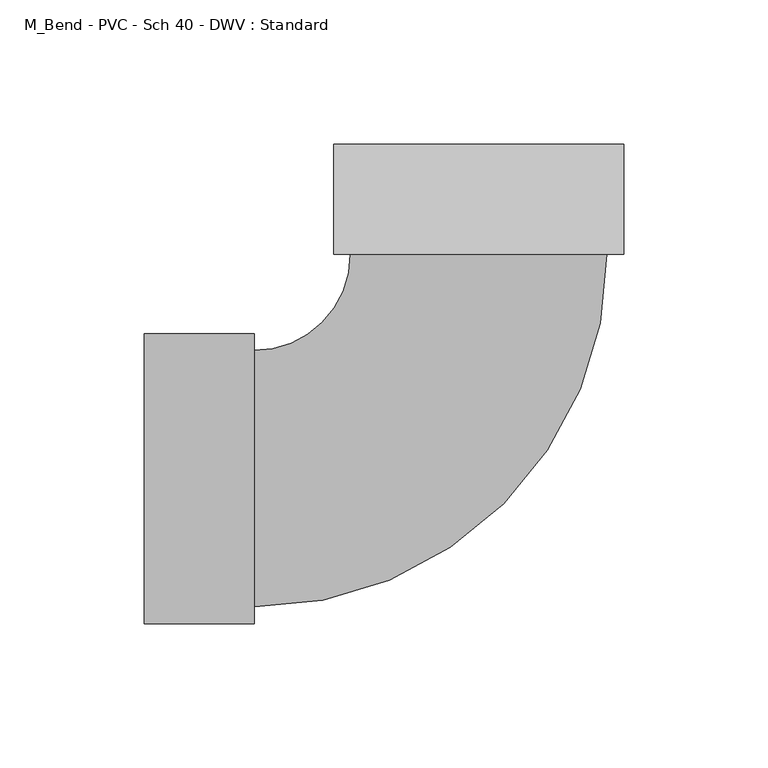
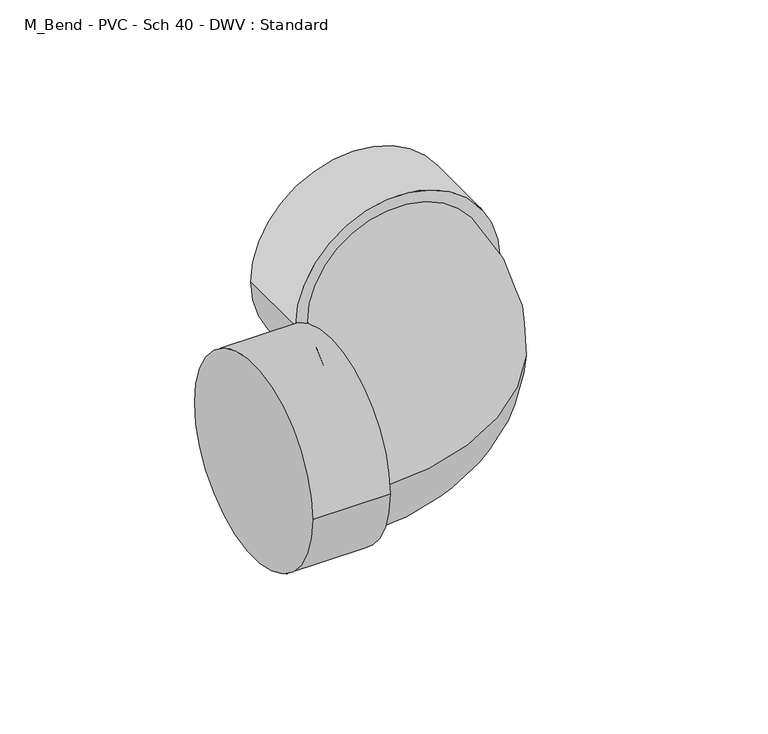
"""IFC4 building model written with IfcOpenShell, lengths in millimetres: pipe fitting geometry, M_Bend - PVC - Sch 40 - DWV : Standard."""

from ifc_helpers import new_model, si_unit, point, frame, origin, place, context, project, spatial, circle_curve, ellipse_curve, trimmed, source, transform, mapped, element, save
from ifc_brep_helpers import plane_surface, cylinder_surface, revolved_surface, advanced_brep


def m_bend_pvc_sch_40_dwv_standard_a4b99d37(model_context):
    return source(origin(), model_context, "Body", "AdvancedBrep", [
        advanced_brep(
        [(-115.9002, -50.2666, 0.0), (-115.9002, 50.2666, 0.0), (-77.8002, -50.2666, 0.0), (-77.8002, 50.2666, 0.0), (-77.8002, -44.45, 0.0), (-77.8002, 44.45, 0.0), (-44.45, 77.8002, 0.0), (44.45, 77.8002, 0.0), (50.2666, 77.8002, 0.0), (-50.2666, 77.8002, 0.0), (50.2666, 115.9002, 0.0), (-50.2666, 115.9002, 0.0)],
        [
            (0, 1, circle_curve(frame((-115.9002, 0.0, 0.0), z_axis=(-1.0, 0.0, 0.0), x_axis=(0.0, 1.0, 0.0)), 50.2666)),
            (1, 0, circle_curve(frame((-115.9002, 0.0, 0.0), z_axis=(-1.0, 0.0, 0.0), x_axis=(0.0, 1.0, 0.0)), 50.2666)),
            (2, 3, circle_curve(frame((-77.8002, 0.0, 0.0), z_axis=(1.0, 0.0, 0.0), x_axis=(0.0, 1.0, 0.0)), 50.2666)),
            (3, 2, circle_curve(frame((-77.8002, 0.0, 0.0), z_axis=(1.0, 0.0, 0.0), x_axis=(0.0, 1.0, 0.0)), 50.2666)),
            (4, 5, circle_curve(frame((-77.8002, 0.0, 0.0), z_axis=(-1.0, 0.0, 0.0), x_axis=(0.0, 1.0, 0.0)), 44.45)),
            (5, 4, circle_curve(frame((-77.8002, 0.0, 0.0), z_axis=(-1.0, 0.0, 0.0), x_axis=(0.0, 1.0, 0.0)), 44.45)),
            (0, 2),
            (3, 1),
            (6, 5, circle_curve(frame((-77.8002, 77.8002, 0.0), z_axis=(0.0, 0.0, -1.0), x_axis=(0.0, -1.0, 0.0)), 33.3502)),
            (4, 7, circle_curve(frame((-77.8002, 77.8002, 0.0), z_axis=(0.0, 0.0, 1.0), x_axis=(0.0, -1.0, 0.0)), 122.2502)),
            (7, 6, circle_curve(frame((0.0, 77.8002, 0.0), z_axis=(0.0, -1.0, 0.0), x_axis=(-1.0, 0.0, 0.0)), 44.45)),
            (6, 7, circle_curve(frame((0.0, 77.8002, 0.0), z_axis=(0.0, -1.0, 0.0), x_axis=(-1.0, 0.0, 0.0)), 44.45)),
            (8, 9, circle_curve(frame((0.0, 77.8002, 0.0), z_axis=(0.0, -1.0, 0.0), x_axis=(-1.0, 0.0, 0.0)), 50.2666)),
            (9, 8, circle_curve(frame((0.0, 77.8002, 0.0), z_axis=(0.0, -1.0, 0.0), x_axis=(-1.0, 0.0, 0.0)), 50.2666)),
            (10, 11, circle_curve(frame((0.0, 115.9002, 0.0), z_axis=(0.0, 1.0, 0.0), x_axis=(-1.0, 0.0, 0.0)), 50.2666)),
            (11, 10, circle_curve(frame((0.0, 115.9002, 0.0), z_axis=(0.0, 1.0, 0.0), x_axis=(-1.0, 0.0, 0.0)), 50.2666)),
            (8, 10),
            (11, 9),
        ],
        [
            plane_surface(frame((-115.9002, 0.0, 0.0), z_axis=(-1.0, 0.0, 0.0), x_axis=(0.0, 0.0, 1.0))),
            plane_surface(frame((-77.8002, 0.0, 0.0), z_axis=(1.0, 0.0, 0.0), x_axis=(0.0, 0.0, 1.0))),
            cylinder_surface(frame((-115.9002, 0.0, 0.0), z_axis=(-1.0, 0.0, 0.0), x_axis=(0.0, 1.0, 0.0)), 50.2666),
            revolved_surface(trimmed(ellipse_curve(frame((-77.8002, 0.0, 0.0), z_axis=(-1.0, 0.0, 0.0), x_axis=(0.0, 1.0, 0.0)), 44.45, 44.45), [point((-77.8002, -44.45, 0.0))], [point((-77.8002, 44.45, 0.0))], True, "CARTESIAN"), (-77.8002, 77.8002, 0.0), (0.0, 0.0, 1.0)),
            revolved_surface(trimmed(ellipse_curve(frame((-77.8002, 0.0, 0.0), z_axis=(-1.0, 0.0, 0.0), x_axis=(0.0, 1.0, 0.0)), 44.45, 44.45), [point((-77.8002, 44.45, 0.0))], [point((-77.8002, -44.45, 0.0))], True, "CARTESIAN"), (-77.8002, 77.8002, 0.0), (0.0, 0.0, 1.0)),
            plane_surface(frame((0.0, 77.8002, 0.0), z_axis=(0.0, -1.0, 0.0), x_axis=(0.0, 0.0, 1.0))),
            plane_surface(frame((0.0, 115.9002, 0.0), z_axis=(0.0, 1.0, 0.0), x_axis=(0.0, 0.0, 1.0))),
            cylinder_surface(frame((0.0, 77.8002, 0.0), z_axis=(0.0, -1.0, 0.0), x_axis=(-1.0, 0.0, 0.0)), 50.2666),
        ],
        [
            (0, [[1, 2]]),
            (1, [[3, 4], [5, 6]]),
            (2, [[-1, 7, -4, 8]]),
            (2, [[-2, -8, -3, -7]]),
            (3, [[9, -5, 10, 11]]),
            (4, [[-9, 12, -10, -6]]),
            (5, [[13, 14], [-11, -12]]),
            (6, [[15, 16]]),
            (7, [[-13, 17, -16, 18]]),
            (7, [[-14, -18, -15, -17]]),
        ],
    ),
    ])


if __name__ == "__main__":
    model = new_model("IFC4")
    model_context = context("Model", 3, world=origin())
    ifc_project = project(units=[si_unit("LENGTHUNIT", "METRE", prefix="MILLI")], contexts=[model_context])
    site = spatial("IfcSite", under=ifc_project)
    building = spatial("IfcBuilding", under=site)
    placement = place(None, origin())
    m_bend_pvc_sch_40_dwv_standard_shape = m_bend_pvc_sch_40_dwv_standard_a4b99d37(model_context)
    element("IfcPipeFitting", 1, ObjectType="M_Bend - PVC - Sch 40 - DWV : Standard", at=placement, inside=building, context=model_context, shape_type="MappedRepresentation", body=[
        mapped(m_bend_pvc_sch_40_dwv_standard_shape, transform((0.0, 0.0, 0.0), x_axis=(1.0, 0.0, 0.0), y_axis=(0.0, 1.0, 0.0), z_axis=(0.0, 0.0, 1.0))),
    ])
    save(model, "model.ifc")
